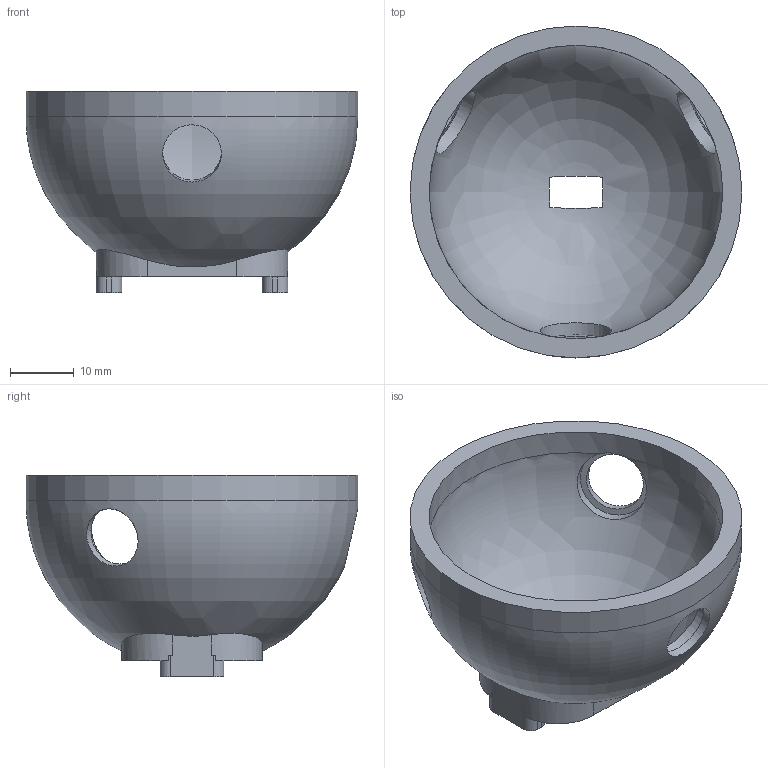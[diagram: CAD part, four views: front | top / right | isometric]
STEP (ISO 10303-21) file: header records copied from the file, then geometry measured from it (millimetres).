
FILE_DESCRIPTION(('Open CASCADE Model'),'2;1');
FILE_NAME('Open CASCADE Shape Model','2026-05-31T19:42:59',('Author'),( 'Open CASCADE'),'Open CASCADE STEP processor 7.6','Open CASCADE 7.6' ,'Unknown');
FILE_SCHEMA(('AP242_MANAGED_MODEL_BASED_3D_ENGINEERING_MIM_LF. {1 0 10303 442 1 1 4 }'));
Length unit declared in the file: millimetre
Products named in the file (1): Open CASCADE STEP translator 7.6 2
Bounding box: 52 x 52 x 31.6 mm (x, y, z)
Volume: 12823.7 mm3; surface area: 9641.2 mm2
Topology: 1 solids, 1 shells, 71 faces, 203 edges, 134 vertices
Faces by surface type: plane 35, cylinder 28, bspline 4, revolution 2, cone 2
Full cylindrical faces by diameter (mm): 2.05 x2, 9.2 x3, 11.2 x3, 46 x1, 52 x1
Entity records: 8148 total; most frequent: CARTESIAN_POINT 4210, DIRECTION 714, ORIENTED_EDGE 402, PCURVE 402, DEFINITIONAL_REPRESENTATION 402, LINE 388, VECTOR 388, EDGE_CURVE 201
